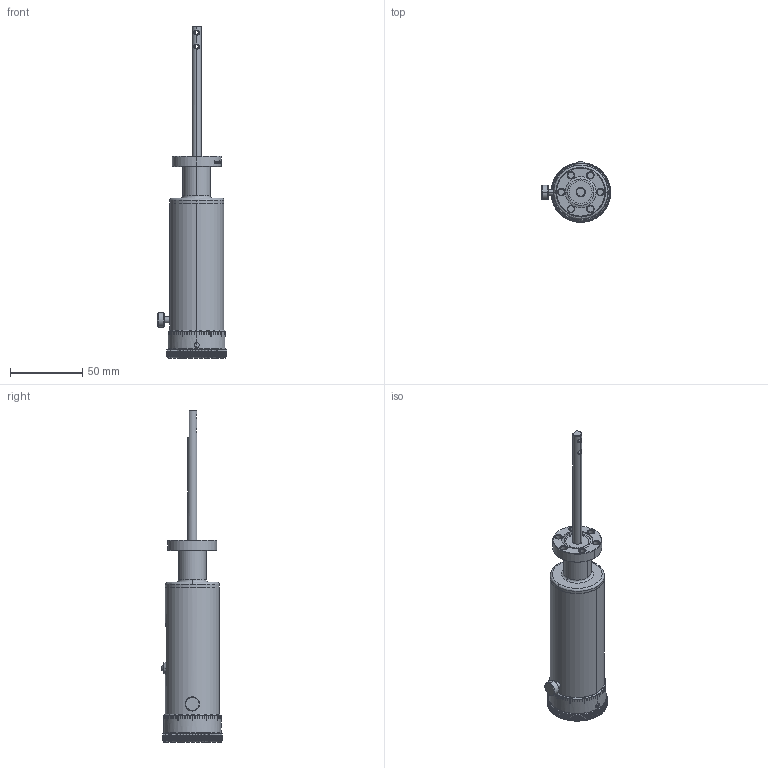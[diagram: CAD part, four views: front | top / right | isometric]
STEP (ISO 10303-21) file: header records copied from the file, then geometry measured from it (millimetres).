
FILE_DESCRIPTION (( 'STEP AP203' ), '1' );
FILE_NAME ('102200.stp', '2019-03-21T19:31:02', ( '' ), ( '' ), 'SwSTEP 2.0', 'SolidWorks 2012', '' );
FILE_SCHEMA (( 'CONFIG_CONTROL_DESIGN' ));
Products named in the file (1): 102200
Bounding box: 47.81 x 41.82 x 229.77 mm (x, y, z)
Volume: 139099.8 mm3; surface area: 22479 mm2
Topology: 1 solids, 1 shells, 1036 faces, 2963 edges, 1966 vertices
Faces by surface type: plane 508, cylinder 317, bspline 150, cone 61
Entity records: 63399 total; most frequent: CARTESIAN_POINT 38067, ORIENTED_EDGE 5926, DIRECTION 4436, EDGE_CURVE 2963, VERTEX_POINT 1966, AXIS2_PLACEMENT_3D 1662, LINE 1112, VECTOR 1112
